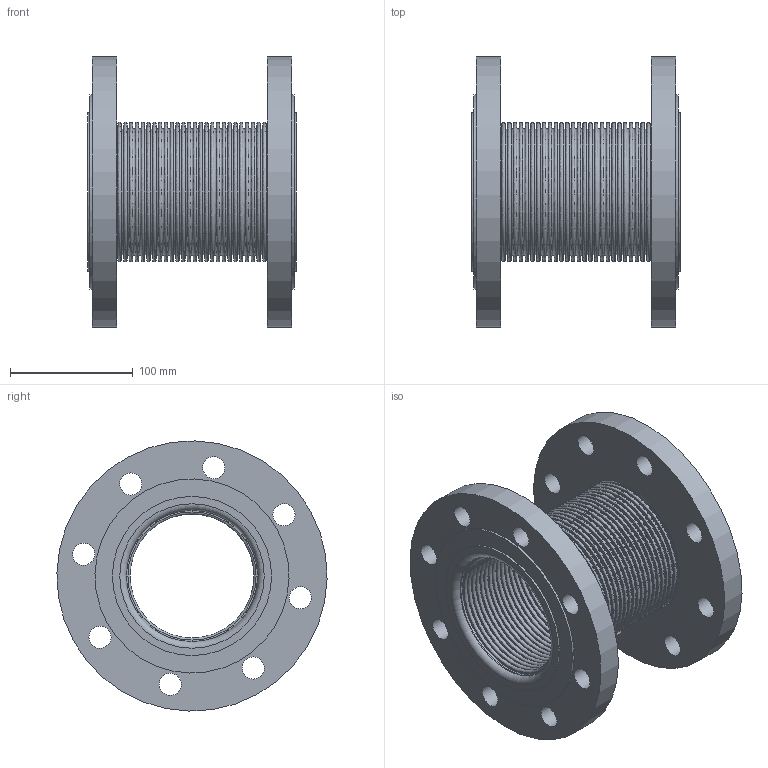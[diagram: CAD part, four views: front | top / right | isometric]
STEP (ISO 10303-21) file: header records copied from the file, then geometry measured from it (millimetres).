
FILE_DESCRIPTION (( 'STEP AP214' ), '1' );
FILE_NAME ('97109999.STEP', '2024-09-06T14:05:10', ( '' ), ( '' ), 'SwSTEP 2.0', 'SolidWorks 2021', '' );
FILE_SCHEMA (( 'AUTOMOTIVE_DESIGN' ));
Length unit declared in the file: millimetre
Products named in the file (3): 97109999; 97109999-123694-AUTO; 23135-101306
Assembly tree (3 placements, depth 2):
  97109999
    97109999-123694-AUTO
    23135-101306  x2
Bounding box: 170 x 219.94 x 219.94 mm (x, y, z)
Volume: 1186983.2 mm3; surface area: 494513.4 mm2
Topology: 3 solids, 3 shells, 308 faces, 506 edges, 340 vertices
Faces by surface type: plane 142, torus 70, bspline 68, cylinder 28
Full cylindrical faces by diameter (mm): 18 x16, 107.247 x2, 110.964 x2, 116 x2, 129.553 x2, 158 x2, 220 x2
Entity records: 19782 total; most frequent: CARTESIAN_POINT 14836, DIRECTION 1068, EDGE_LOOP 604, ORIENTED_EDGE 604, AXIS2_PLACEMENT_3D 534, FACE_OUTER_BOUND 449, CIRCLE 302, EDGE_CURVE 302
